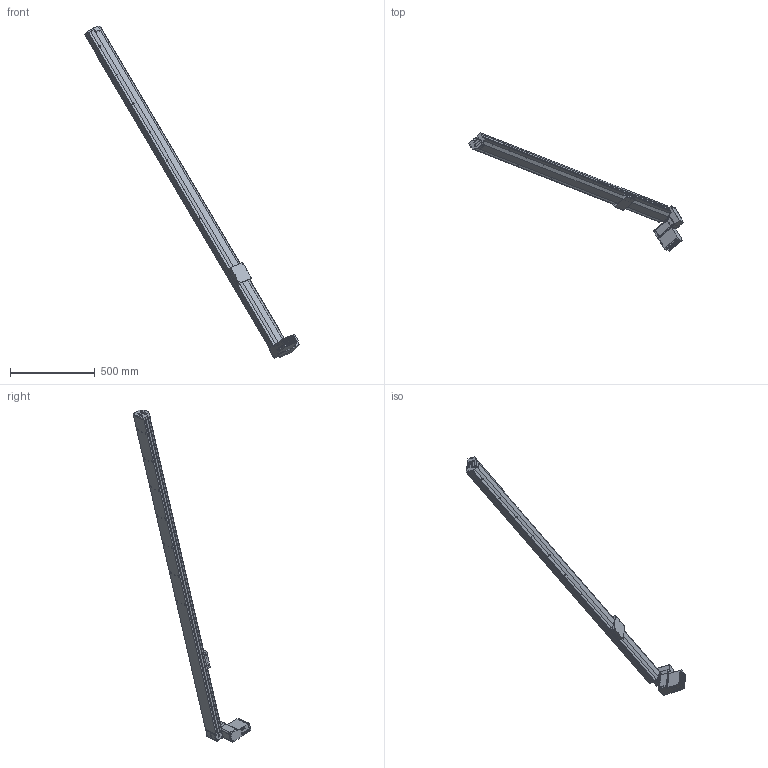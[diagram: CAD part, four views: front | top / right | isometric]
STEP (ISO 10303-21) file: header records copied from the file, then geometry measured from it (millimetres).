
FILE_DESCRIPTION (( 'STEP AP203' ), '1' );
FILE_NAME ('S10 CBH RT S2200.STEP', '2012-10-01T11:55:09', ( '' ), ( '' ), 'SwSTEP 2.0', 'SolidWorks 2010', '' );
FILE_SCHEMA (( 'CONFIG_CONTROL_DESIGN' ));
Length unit declared in the file: millimetre
Products named in the file (9): palette tbh; plaque de bout; embout; moteur M3_1; Plaque racord_; MOTEUR GMI 61 ; axe 2200; moteur M3; S10 CBH RT S2200
Assembly tree (7 placements, depth 3):
  moteur M3
  S10 CBH RT S2200
    embout
    palette tbh
    MOTEUR GMI 61 
    axe 2200
    plaque de bout
      Plaque racord_
      moteur M3_1
Bounding box: 1273.17 x 697.19 x 1963.72 mm (x, y, z)
Volume: 12387651.2 mm3; surface area: 1196040.2 mm2
Topology: 5 solids, 18 shells, 781 faces, 2036 edges, 1280 vertices
Faces by surface type: plane 381, cylinder 291, cone 74, torus 23, bspline 8, sphere 4
Entity records: 27081 total; most frequent: CARTESIAN_POINT 6953, DIRECTION 4067, ORIENTED_EDGE 3824, EDGE_CURVE 1962, AXIS2_PLACEMENT_3D 1406, VERTEX_POINT 1280, VECTOR 1255, LINE 1255
